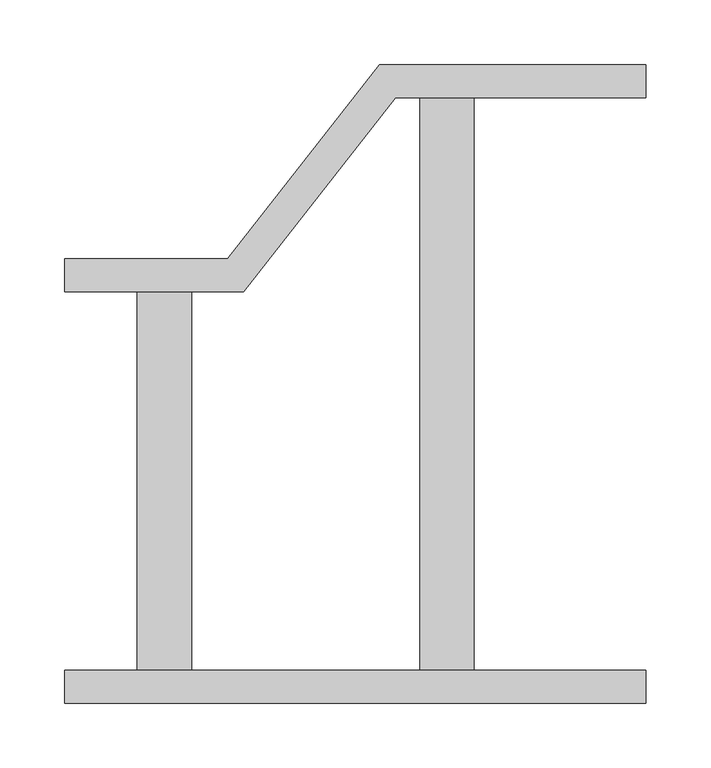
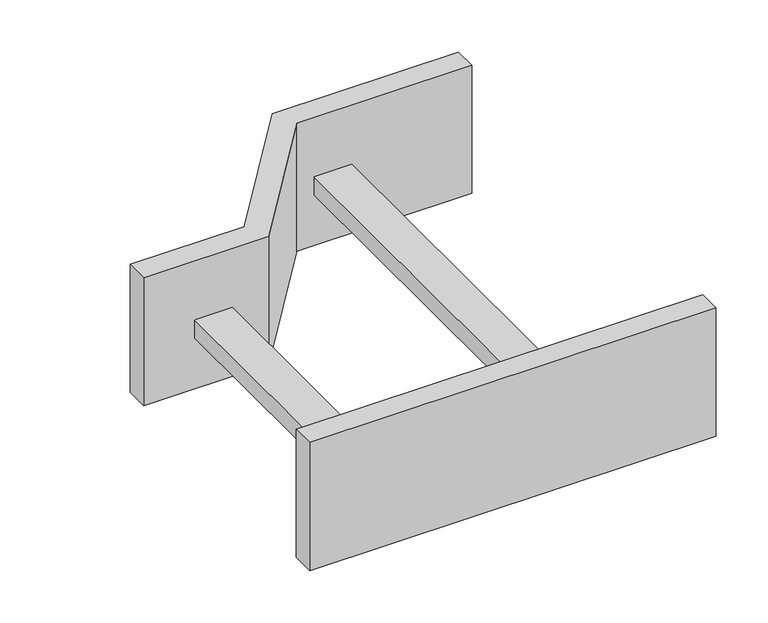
"""IFC4 building model written with IfcOpenShell, lengths in millimetres: cable carrier fitting geometry, Legrand_CableLadder_Swifts_Emerald_Reducer-13 : Right Hand - Hot Dip Galvanised (after manufacture)."""

from ifc_helpers import new_model, si_unit, frame, origin, place, context, project, spatial, polyline, outline, extrude, source, transform, mapped, element, save


def cable_carrier_fitting_745f889b(model_context):
    return source(origin(), model_context, "Body", "SweptSolid", [
        extrude(outline(polyline([(-225.0, 71.5), (-225.0, 97.0), (-98.8584536, 97.0), (18.7964757, 247.0), (225.0, 247.0), (225.0, 221.5), (31.2035243, 221.5), (-86.451405, 71.5), (-225.0, 71.5)])), frame((0.0, 0.0, -75.0), z_axis=(0.0, 0.0, 1.0), x_axis=(1.0, 0.0, 0.0)), (0.0, 0.0, 1.0), 150.0),
        extrude(outline(polyline([(225.0, -247.0), (-225.0, -247.0), (-225.0, -221.5), (225.0, -221.5), (225.0, -247.0)])), frame((0.0, 0.0, -75.0), z_axis=(0.0, 0.0, 1.0), x_axis=(1.0, 0.0, 0.0)), (0.0, 0.0, 1.0), 150.0),
        extrude(outline(polyline([(92.0, 221.5), (92.0, -221.5), (50.0, -221.5), (50.0, 221.5), (92.0, 221.5)])), frame((0.0, 0.0, -15.0), z_axis=(0.0, 0.0, 1.0), x_axis=(1.0, 0.0, 0.0)), (0.0, 0.0, 1.0), 21.0),
        extrude(outline(polyline([(-168.8274647, -221.5), (-168.8274647, 71.5), (-126.8274647, 71.5), (-126.8274647, -221.5), (-168.8274647, -221.5)])), frame((0.0, 0.0, -15.0), z_axis=(0.0, 0.0, 1.0), x_axis=(1.0, 0.0, 0.0)), (0.0, 0.0, 1.0), 21.0),
    ])


if __name__ == "__main__":
    model = new_model("IFC4")
    model_context = context("Model", 3, world=origin())
    ifc_project = project(units=[si_unit("LENGTHUNIT", "METRE", prefix="MILLI")], contexts=[model_context])
    site = spatial("IfcSite", under=ifc_project)
    building = spatial("IfcBuilding", under=site)
    placement = place(None, origin())
    cable_carrier_fitting_shape = cable_carrier_fitting_745f889b(model_context)
    element("IfcCableCarrierFitting", 1, ObjectType="Legrand_CableLadder_Swifts_Emerald_Reducer-13 : Right Hand - Hot Dip Galvanised (after manufacture)", at=placement, inside=building, context=model_context, shape_type="MappedRepresentation", body=[
        mapped(cable_carrier_fitting_shape, transform((0.0, 0.0, 0.0), x_axis=(1.0, 0.0, 0.0), y_axis=(0.0, 1.0, 0.0), z_axis=(0.0, 0.0, 1.0))),
    ])
    save(model, "model.ifc")
